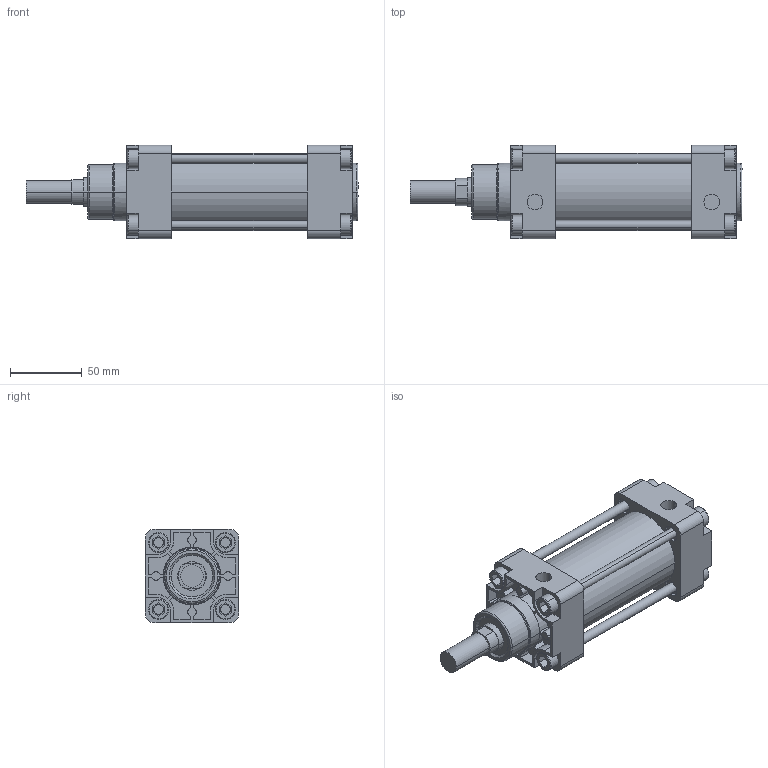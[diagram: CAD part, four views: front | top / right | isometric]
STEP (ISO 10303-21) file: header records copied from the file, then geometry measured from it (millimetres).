
FILE_DESCRIPTION(('CATIA V5 STEP Exchange'),'2;1');
FILE_NAME('D:\stp file for catalog\PNC\50\PNC 50-20-50.stp','2015-06-16T05:44:39+00:00',('none'),('none'),'Version 5-6 Release 2012','CATIA V5 STEP AP203','none');
FILE_SCHEMA(('CONFIG_CONTROL_DESIGN'));
Length unit declared in the file: millimetre
Products named in the file (1): PNC 50-20-50-00
Assembly tree (2 placements, depth 2):
  PNC 50-20-50-00
    #58
    #14116
Bounding box: 231 x 65 x 65 mm (x, y, z)
Volume: 407331.4 mm3; surface area: 127760.3 mm2
Topology: 6 solids, 6 shells, 536 faces, 1334 edges, 870 vertices
Faces by surface type: plane 324, cylinder 168, torus 26, extrusion 16, cone 2
Entity records: 14540 total; most frequent: CARTESIAN_POINT 2873, ORIENTED_EDGE 2668, DIRECTION 1792, EDGE_CURVE 1334, VECTOR 878, VERTEX_POINT 870, LINE 862, AXIS2_PLACEMENT_3D 661
